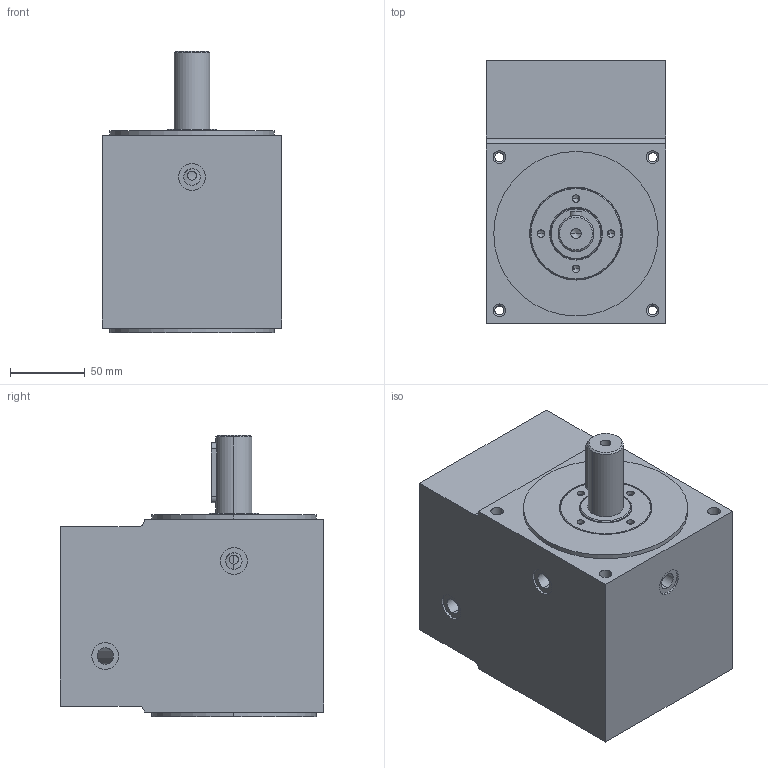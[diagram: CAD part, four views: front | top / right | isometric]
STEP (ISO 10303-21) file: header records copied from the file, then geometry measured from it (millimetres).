
FILE_DESCRIPTION (( 'STEP AP214' ), '1' );
FILE_NAME ('ZR120-V2.STEP', '2021-04-13T07:59:06', ( '微软用户' ), ( '微软中国' ), 'SwSTEP 2.0', 'SolidWorks 2014', '' );
FILE_SCHEMA (( 'AUTOMOTIVE_DESIGN' ));
Length unit declared in the file: millimetre
Products named in the file (2): ZR120-V2
Bounding box: 120 x 176 x 188 mm (x, y, z)
Volume: 2064623.5 mm3; surface area: 321509.6 mm2
Topology: 2 solids, 40 shells, 1214 faces, 3053 edges, 1907 vertices
Faces by surface type: cylinder 404, cone 394, plane 256, bspline 160
Entity records: 45577 total; most frequent: CARTESIAN_POINT 17943, ORIENTED_EDGE 6062, DIRECTION 5424, EDGE_CURVE 3031, AXIS2_PLACEMENT_3D 2233, VERTEX_POINT 1907, EDGE_LOOP 1340, ADVANCED_FACE 1214
